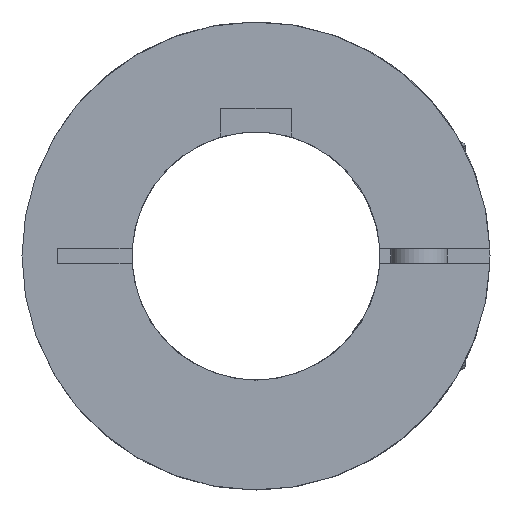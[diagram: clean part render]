
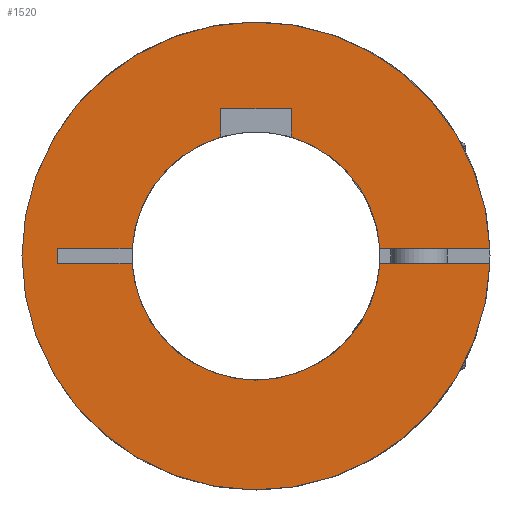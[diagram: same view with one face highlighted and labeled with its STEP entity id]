
A CAD part, left-side view. The second image highlights one B-rep face of the part: STEP entity #1520.
In plain terms, the highlighted planar face has unit normal (-1, 0, 0).
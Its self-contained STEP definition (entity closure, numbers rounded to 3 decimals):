
#23=PLANE('',#1726);
#147=LINE('',#2718,#260);
#150=LINE('',#2724,#263);
#151=LINE('',#2726,#264);
#161=LINE('',#2744,#274);
#163=LINE('',#2748,#276);
#166=LINE('',#2754,#279);
#167=LINE('',#2755,#280);
#168=LINE('',#2756,#281);
#260=VECTOR('',#2075,1.);
#263=VECTOR('',#2080,1.);
#264=VECTOR('',#2083,1.);
#274=VECTOR('',#2101,26.057);
#276=VECTOR('',#2105,21.072);
#279=VECTOR('',#2110,21.072);
#280=VECTOR('',#2111,2.);
#281=VECTOR('',#2112,26.057);
#393=FACE_OUTER_BOUND('',#488,.T.);
#488=EDGE_LOOP('',(#1247,#1248,#1249,#1250,#1251,#1252,#1253,#1254,#1255,
#1256,#1257,#1258));
#633=CIRCLE('',#1688,33.);
#649=CIRCLE('',#1711,17.5);
#652=CIRCLE('',#1715,17.5);
#654=CIRCLE('',#1717,17.5);
#730=VERTEX_POINT('',#2578);
#731=VERTEX_POINT('',#2580);
#755=VERTEX_POINT('',#2687);
#756=VERTEX_POINT('',#2688);
#761=VERTEX_POINT('',#2699);
#762=VERTEX_POINT('',#2701);
#765=VERTEX_POINT('',#2707);
#766=VERTEX_POINT('',#2709);
#768=VERTEX_POINT('',#2716);
#770=VERTEX_POINT('',#2722);
#775=VERTEX_POINT('',#2747);
#777=VERTEX_POINT('',#2753);
#905=EDGE_CURVE('',#730,#731,#633,.T.);
#936=EDGE_CURVE('',#755,#756,#649,.T.);
#942=EDGE_CURVE('',#762,#761,#652,.T.);
#946=EDGE_CURVE('',#766,#765,#654,.T.);
#951=EDGE_CURVE('',#765,#768,#147,.T.);
#954=EDGE_CURVE('',#768,#770,#150,.T.);
#955=EDGE_CURVE('',#770,#762,#151,.T.);
#965=EDGE_CURVE('',#730,#755,#161,.T.);
#967=EDGE_CURVE('',#775,#766,#163,.T.);
#970=EDGE_CURVE('',#777,#756,#166,.T.);
#971=EDGE_CURVE('',#775,#777,#167,.T.);
#972=EDGE_CURVE('',#761,#731,#168,.T.);
#1247=ORIENTED_EDGE('',*,*,#936,.T.);
#1248=ORIENTED_EDGE('',*,*,#970,.F.);
#1249=ORIENTED_EDGE('',*,*,#971,.F.);
#1250=ORIENTED_EDGE('',*,*,#967,.T.);
#1251=ORIENTED_EDGE('',*,*,#946,.T.);
#1252=ORIENTED_EDGE('',*,*,#951,.T.);
#1253=ORIENTED_EDGE('',*,*,#954,.T.);
#1254=ORIENTED_EDGE('',*,*,#955,.T.);
#1255=ORIENTED_EDGE('',*,*,#942,.T.);
#1256=ORIENTED_EDGE('',*,*,#972,.T.);
#1257=ORIENTED_EDGE('',*,*,#905,.F.);
#1258=ORIENTED_EDGE('',*,*,#965,.T.);
#1520=ADVANCED_FACE('',(#393),#23,.T.);
#1688=AXIS2_PLACEMENT_3D('',#2581,#1992,#1993);
#1711=AXIS2_PLACEMENT_3D('',#2689,#2050,#2051);
#1715=AXIS2_PLACEMENT_3D('',#2702,#2061,#2062);
#1717=AXIS2_PLACEMENT_3D('',#2710,#2067,#2068);
#1726=AXIS2_PLACEMENT_3D('',#2752,#2108,#2109);
#1992=DIRECTION('center_axis',(1.,0.,0.));
#1993=DIRECTION('ref_axis',(0.,1.,0.));
#2050=DIRECTION('center_axis',(1.,0.,0.));
#2051=DIRECTION('ref_axis',(0.,0.,1.));
#2061=DIRECTION('center_axis',(1.,0.,0.));
#2062=DIRECTION('ref_axis',(0.,0.,1.));
#2067=DIRECTION('center_axis',(1.,0.,0.));
#2068=DIRECTION('ref_axis',(0.,0.,1.));
#2075=DIRECTION('',(0.,0.,1.));
#2080=DIRECTION('',(0.,-1.,0.));
#2083=DIRECTION('',(0.,0.,-1.));
#2101=DIRECTION('',(0.,1.,0.));
#2105=DIRECTION('',(0.,-1.,0.));
#2108=DIRECTION('center_axis',(-1.,0.,0.));
#2109=DIRECTION('ref_axis',(0.,-1.,0.));
#2110=DIRECTION('',(0.,-1.,0.));
#2111=DIRECTION('',(0.,0.,-1.));
#2112=DIRECTION('',(0.,-1.,0.));
#2578=CARTESIAN_POINT('',(0.,-32.985,-1.));
#2580=CARTESIAN_POINT('',(0.,-32.985,1.));
#2581=CARTESIAN_POINT('Origin',(0.,0.,0.));
#2687=CARTESIAN_POINT('',(0.,-17.471,-1.));
#2688=CARTESIAN_POINT('',(0.,17.471,-1.));
#2689=CARTESIAN_POINT('Origin',(0.,0.,0.));
#2699=CARTESIAN_POINT('',(0.,-17.471,1.));
#2701=CARTESIAN_POINT('',(0.,-5.,16.771));
#2702=CARTESIAN_POINT('Origin',(0.,0.,0.));
#2707=CARTESIAN_POINT('',(0.,5.,16.771));
#2709=CARTESIAN_POINT('',(0.,17.471,1.));
#2710=CARTESIAN_POINT('Origin',(0.,0.,0.));
#2716=CARTESIAN_POINT('',(0.,5.,20.8));
#2718=CARTESIAN_POINT('',(0.,5.,21.7));
#2722=CARTESIAN_POINT('',(0.,-5.,20.8));
#2724=CARTESIAN_POINT('',(0.,0.,20.8));
#2726=CARTESIAN_POINT('',(0.,-5.,21.7));
#2744=CARTESIAN_POINT('',(0.,-32.985,-1.));
#2747=CARTESIAN_POINT('',(0.,28.,1.));
#2748=CARTESIAN_POINT('',(0.,28.,1.));
#2752=CARTESIAN_POINT('Origin',(0.,0.,33.));
#2753=CARTESIAN_POINT('',(0.,28.,-1.));
#2754=CARTESIAN_POINT('',(0.,28.,-1.));
#2755=CARTESIAN_POINT('',(0.,28.,1.));
#2756=CARTESIAN_POINT('',(0.,-6.928,1.));
